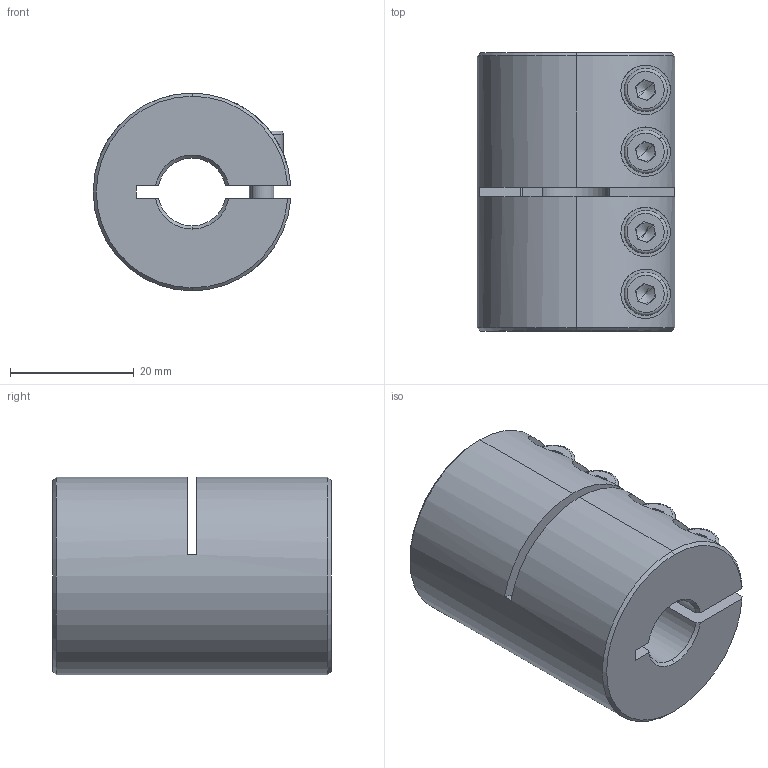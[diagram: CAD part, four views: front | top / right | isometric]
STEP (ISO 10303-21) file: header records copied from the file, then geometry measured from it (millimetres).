
FILE_DESCRIPTION (( 'STEP AP214' ), '1' );
FILE_NAME ('LL-B-D32L45-11-11½¨Ä£.STEP', '2022-07-21T07:09:21', ( '' ), ( '' ), 'SwSTEP 2.0', 'SolidWorks 2022', '' );
FILE_SCHEMA (( 'AUTOMOTIVE_DESIGN' ));
Length unit declared in the file: millimetre
Products named in the file (1): LL-B-D32L45-11-11膘耀
Bounding box: 31.97 x 45 x 32 mm (x, y, z)
Volume: 29425.8 mm3; surface area: 10752.4 mm2
Topology: 1 solids, 1 shells, 188 faces, 477 edges, 299 vertices
Faces by surface type: plane 86, cylinder 74, cone 20, torus 8
Entity records: 6186 total; most frequent: CARTESIAN_POINT 1553, DIRECTION 1006, ORIENTED_EDGE 938, EDGE_CURVE 469, AXIS2_PLACEMENT_3D 392, VERTEX_POINT 299, VECTOR 222, LINE 222
